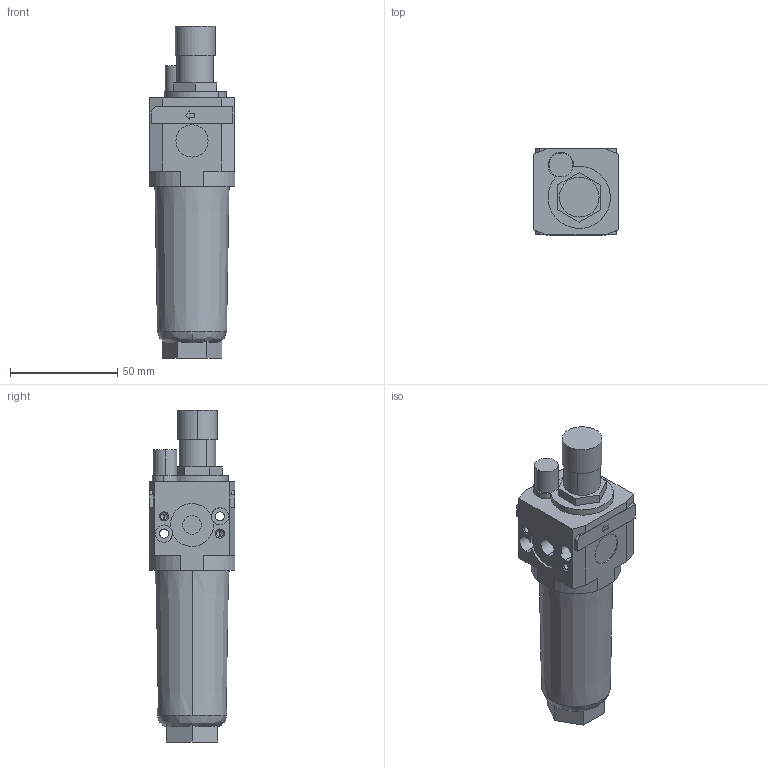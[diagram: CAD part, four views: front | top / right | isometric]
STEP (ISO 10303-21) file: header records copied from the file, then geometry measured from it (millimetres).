
FILE_DESCRIPTION((''),'2;1');
FILE_NAME('I:\DOC-EDP\Lib-3d\FRL\17103A.stp','2003-06-16T14:47:49',('maffial1'),(''),'Autodesk Inventor 7','Autodesk Inventor 7','');
FILE_SCHEMA(('AUTOMOTIVE_DESIGN { 1 0 10303 214 1 1 1 1 }'));
Length unit declared in the file: millimetre
Products named in the file (1): 17103A
Bounding box: 40 x 40 x 154.5 mm (x, y, z)
Volume: 135783.1 mm3; surface area: 25070.4 mm2
Topology: 1 solids, 3 shells, 154 faces, 386 edges, 248 vertices
Faces by surface type: plane 59, bspline 55, cylinder 30, cone 10
Entity records: 4967 total; most frequent: CARTESIAN_POINT 1392, ORIENTED_EDGE 756, DIRECTION 682, EDGE_CURVE 378, VECTOR 250, LINE 250, VERTEX_POINT 248, AXIS2_PLACEMENT_3D 216
